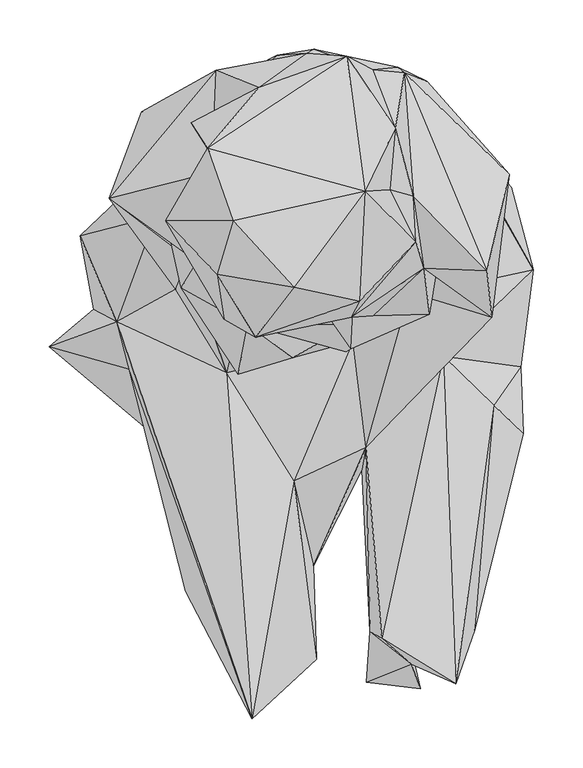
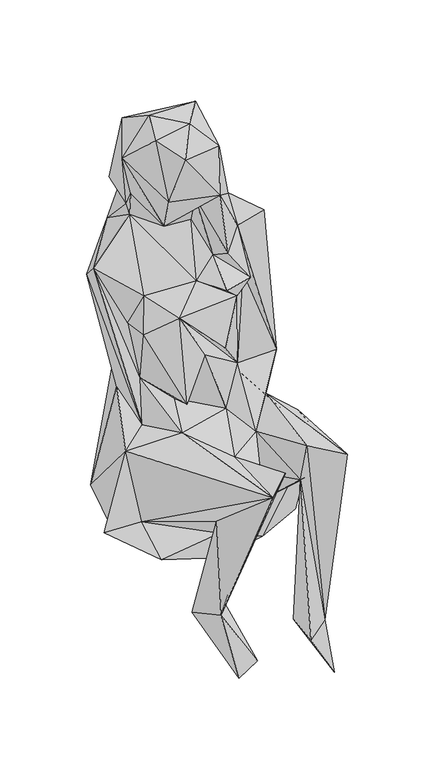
"""IFC4 building model written with IfcOpenShell, lengths in millimetres: geographic element geometry, Enscape AssetDefinition - Maja Sitting : Enscape AssetDefinition - Maja Sitting."""

from ifc_helpers import new_model, si_unit, origin, place, context, project, spatial, faceted_brep, source, transform, mapped, element, save


def geographic_element_6d1b33b0(model_context):
    return source(origin(), model_context, "Body", "Brep", [
        faceted_brep([(47.5098789, -12.7179194, 801.9140959), (2.6335388, -40.0580391, 694.3977475), (67.8890049, 20.3961525, 596.739471), (-97.0111936, -12.2370906, 792.4607396), (-33.5448161, 22.6570498, 848.3881354), (95.2361375, 44.5918515, 809.7375631), (7.922655, -36.6411507, 843.4767127), (87.515831, -2.0094633, 830.6225538), (150.7027298, -4.9264911, 618.9838052), (81.9241926, 44.8553078, 940.754354), (30.2150752, -3.5841775, 915.0460958), (11.1812707, 28.827684, 898.0457783), (-36.5229473, 23.2380498, 1066.7254925), (-11.8995095, 84.2472017, 966.6970372), (8.4836213, -5.0667324, 1076.710701), (-124.1659969, 7.1763685, 1034.229517), (-133.0122501, 142.1079189, 986.7817163), (-180.3458184, 92.7167982, 1181.3950539), (-146.8170285, 114.0205115, 1064.892292), (-120.7761541, -6.8317745, 1105.2207947), (-132.690683, 157.8550637, 1006.7030191), (-127.7962476, 38.8058797, 1242.8090572), (-137.6662701, 166.3146466, 1228.941083), (-111.7395833, 92.7779004, 1271.9912529), (-88.8300911, -25.4498627, 1215.9496546), (-50.0552692, 25.5850963, 1267.794013), (21.8496583, 122.8357032, 1243.4831858), (16.274048, 11.2103205, 1195.022583), (73.968485, 71.8488321, 1013.1140947), (3.8716728, 259.8778903, 1000.6856918), (52.8560951, 186.6767406, 1047.7417707), (47.373645, 124.3022382, 1086.8401527), (71.359992, 117.6878288, 1001.3338327), (62.0549507, 242.8795993, 885.5632544), (29.9776662, 246.0240126, 932.1004748), (145.9214985, 41.987367, 961.5662098), (168.282032, 140.3158307, 874.2167354), (84.6438855, 234.5812917, 778.4686685), (55.2341938, 248.7767637, 794.2889333), (-29.7222268, 266.7046785, 820.5682039), (-37.2201502, 262.9331648, 925.1545072), (42.1496406, 232.1591228, 731.6990495), (111.3999933, 178.4014851, 742.6689863), (59.5666654, 202.0352036, 707.4122429), (-25.980778, 259.1035664, 709.6390128), (100.5653217, 134.4376951, 620.3050613), (14.7634437, 211.126864, 597.1271396), (109.41457, 65.3225854, 608.7641716), (153.125912, 112.8985807, 462.8216624), (-51.4636934, 230.8709025, 455.3427696), (103.2850146, 203.4696639, 432.4342906), (193.0397004, 43.5991399, 416.4297283), (78.0875832, 18.4598155, 565.2481914), (170.4507619, 127.2412986, 310.3919625), (-21.119399, 244.067654, 357.7255309), (-140.8036649, 197.3331124, 575.7502913), (-267.1003342, 78.0144557, 356.4372957), (-170.0881422, -34.5725827, 304.27441), (104.2005867, -74.433282, 317.2517717), (180.1274568, -55.2472211, 402.9605091), (101.4688835, -44.3514362, 543.1200266), (23.1509004, -136.5293115, 526.9842744), (-51.6960956, -46.0663959, 700.3630996), (9.9010644, -29.0691014, 526.5344381), (-106.9172695, -62.8413111, 599.0564823), (-105.9716418, -5.0406875, 578.9798498), (-148.3586878, 51.2343049, 831.5341473), (-164.6327525, 25.0401571, 750.3492236), (-157.3562026, 54.524973, 615.8043146), (-118.6454818, -61.1043088, 526.2680054), (-50.1043536, -170.5188751, 504.6477318), (-230.0364673, -9.1427574, 484.2996895), (-92.7758962, -411.7646515, 558.0828786), (-170.3105271, 23.5726275, 514.8703456), (-27.4132453, -351.5459001, 563.5823607), (-30.021742, -256.9177747, 457.524538), (-217.4397409, -57.6333292, 323.0187297), (-127.7882457, -245.9538877, 158.4600955), (-159.8725319, -282.5309336, 440.461129), (-134.5478892, -132.8199059, 100.0574455), (-104.0543318, -284.1637433, 6.5953671), (-57.5511903, -282.7192545, 35.5202183), (-87.2243345, -193.5485899, 142.2121078), (-86.2115845, -239.3274754, 421.9752848), (-62.9054159, -128.1618774, 281.8938494), (-52.2069782, -132.1397424, 389.5022869), (40.7782793, -166.9196934, 367.5524592), (19.105928, -159.5640033, 432.5775504), (182.6007068, -122.416988, 466.2605822), (133.3438158, -321.5020895, 524.6081352), (27.2920374, -323.686868, 510.2043152), (23.6898307, -374.7348487, 117.4864918), (49.0775853, -254.6619177, 90.9808055), (69.3024471, -356.6897213, 145.0299472), (39.1805284, -330.4404914, 599.8207927), (114.2398864, -376.6581416, 579.4667006), (78.0395046, -381.2690973, 17.8357381), (152.6090205, -94.2654684, 513.0041838), (109.6720248, -159.233436, 305.2410781), (46.6193482, -125.2809167, 233.562544), (-64.7365749, -136.8839145, 222.2370207), (-201.9460499, -115.5862138, 252.8097034), (-298.3211577, -34.784954, 308.5908592), (-253.2304525, 3.0773038, 272.9263902), (-190.444231, 97.705394, 577.2148371), (-121.8650267, 192.106083, 680.3084612), (-204.8420459, 203.4967244, 815.4764175), (-59.377335, 241.7085767, 712.0591998), (-124.3883818, 231.1834544, 803.8854599), (-66.9974685, 260.9357238, 799.8304963), (-98.7582058, 232.6790243, 865.7571077), (-129.1786432, 245.3638911, 914.1305089), (-85.6095478, 228.4056693, 1066.1615133), (-237.6295477, 115.9738824, 896.0292935), (-154.6605527, 192.5027817, 1063.2174015), (-175.868094, 75.4179806, 754.8279166)], [[[0, 1, 2]], [[1, 0, 3]], [[1, 3, 2]], [[4, 3, 0]], [[0, 2, 5]], [[6, 0, 7]], [[5, 7, 0]], [[6, 4, 0]], [[2, 8, 5]], [[5, 9, 7]], [[9, 5, 8]], [[9, 10, 7]], [[7, 11, 6]], [[7, 10, 11]], [[11, 4, 6]], [[12, 13, 11]], [[11, 13, 4]], [[12, 11, 10]], [[9, 14, 10]], [[10, 14, 12]], [[13, 12, 15]], [[12, 14, 15]], [[16, 13, 15]], [[13, 16, 4]], [[17, 18, 15]], [[15, 14, 19]], [[17, 15, 19]], [[15, 18, 16]], [[17, 20, 18]], [[18, 20, 16]], [[19, 21, 17]], [[20, 17, 22]], [[17, 21, 23]], [[23, 22, 17]], [[19, 14, 24]], [[24, 21, 19]], [[25, 23, 21]], [[21, 24, 25]], [[23, 25, 26]], [[22, 23, 26]], [[25, 24, 27]], [[25, 27, 26]], [[14, 27, 24]], [[14, 28, 27]], [[28, 26, 27]], [[22, 26, 29]], [[29, 26, 30]], [[31, 26, 28]], [[26, 31, 30]], [[14, 9, 28]], [[28, 9, 32]], [[28, 32, 31]], [[31, 32, 30]], [[30, 32, 33]], [[30, 34, 29]], [[33, 34, 30]], [[35, 33, 32]], [[35, 32, 9]], [[8, 35, 9]], [[33, 35, 36]], [[35, 8, 36]], [[33, 36, 37]], [[33, 38, 34]], [[37, 38, 33]], [[34, 38, 39]], [[40, 34, 39]], [[29, 34, 40]], [[41, 39, 38]], [[38, 37, 41]], [[37, 42, 43]], [[42, 37, 36]], [[37, 43, 41]], [[44, 39, 41]], [[44, 41, 43]], [[43, 42, 45]], [[44, 43, 46]], [[46, 43, 45]], [[45, 42, 47]], [[36, 47, 42]], [[45, 47, 48]], [[49, 45, 50]], [[46, 45, 49]], [[45, 48, 50]], [[51, 48, 52]], [[50, 48, 51]], [[52, 48, 47]], [[50, 53, 54]], [[50, 51, 53]], [[50, 54, 49]], [[55, 46, 49]], [[55, 49, 54]], [[54, 56, 55]], [[57, 54, 53]], [[57, 56, 54]], [[58, 57, 53]], [[53, 51, 59]], [[58, 53, 59]], [[51, 60, 59]], [[52, 60, 51]], [[52, 47, 60]], [[47, 36, 8]], [[60, 47, 8]], [[2, 61, 8]], [[8, 61, 60]], [[3, 62, 2]], [[2, 63, 61]], [[63, 2, 62]], [[64, 65, 62]], [[3, 64, 62]], [[65, 63, 62]], [[66, 3, 4]], [[3, 66, 67]], [[67, 64, 3]], [[64, 68, 65]], [[67, 68, 64]], [[68, 69, 65]], [[63, 65, 69]], [[70, 63, 69]], [[70, 61, 63]], [[69, 71, 72]], [[72, 70, 69]], [[73, 69, 68]], [[71, 69, 73]], [[70, 72, 74]], [[74, 75, 70]], [[61, 70, 75]], [[71, 76, 72]], [[77, 72, 78]], [[78, 72, 76]], [[72, 77, 74]], [[74, 77, 75]], [[79, 80, 77]], [[78, 79, 77]], [[77, 80, 81]], [[82, 75, 77]], [[82, 77, 81]], [[83, 79, 78]], [[83, 78, 76]], [[81, 80, 79]], [[82, 81, 79]], [[82, 79, 83]], [[82, 83, 75]], [[84, 83, 76]], [[85, 83, 84]], [[83, 85, 75]], [[85, 84, 86]], [[85, 87, 75]], [[85, 86, 87]], [[86, 88, 89]], [[88, 86, 84]], [[86, 89, 90]], [[87, 86, 90]], [[61, 75, 87]], [[61, 87, 90]], [[91, 90, 92]], [[90, 89, 92]], [[93, 90, 91]], [[94, 90, 93]], [[61, 90, 94]], [[60, 61, 94]], [[60, 94, 95]], [[94, 93, 95]], [[92, 89, 93]], [[93, 89, 95]], [[96, 92, 93]], [[93, 91, 96]], [[91, 92, 96]], [[97, 60, 95]], [[89, 97, 95]], [[97, 59, 60]], [[97, 88, 59]], [[88, 97, 89]], [[98, 59, 88]], [[58, 59, 99]], [[99, 59, 98]], [[99, 88, 84]], [[98, 88, 99]], [[84, 100, 99]], [[58, 99, 100]], [[58, 100, 57]], [[101, 100, 84]], [[100, 101, 57]], [[76, 101, 84]], [[57, 101, 102]], [[101, 76, 102]], [[103, 56, 57]], [[103, 57, 102]], [[76, 71, 102]], [[103, 102, 71]], [[56, 103, 71]], [[56, 104, 55]], [[104, 56, 71]], [[73, 104, 71]], [[105, 104, 106]], [[73, 106, 104]], [[105, 55, 104]], [[105, 46, 55]], [[105, 107, 46]], [[108, 107, 105]], [[108, 105, 106]], [[44, 46, 107]], [[108, 109, 107]], [[109, 39, 107]], [[39, 44, 107]], [[109, 108, 110]], [[108, 106, 110]], [[40, 109, 110]], [[109, 40, 39]], [[40, 110, 111]], [[110, 106, 111]], [[40, 111, 112]], [[29, 40, 112]], [[20, 112, 111]], [[113, 111, 106]], [[113, 16, 111]], [[111, 16, 20]], [[112, 22, 29]], [[22, 112, 114]], [[20, 114, 112]], [[114, 20, 22]], [[16, 66, 4]], [[66, 16, 113]], [[66, 115, 67]], [[115, 66, 113]], [[113, 68, 115]], [[67, 115, 68]], [[113, 73, 68]], [[73, 113, 106]]]),
    ])


if __name__ == "__main__":
    model = new_model("IFC4")
    model_context = context("Model", 3, world=origin())
    ifc_project = project(units=[si_unit("LENGTHUNIT", "METRE", prefix="MILLI")], contexts=[model_context])
    site = spatial("IfcSite", under=ifc_project)
    building = spatial("IfcBuilding", under=site)
    placement = place(None, origin())
    geographic_element_shape = geographic_element_6d1b33b0(model_context)
    element("IfcGeographicElement", 1, ObjectType="Enscape AssetDefinition - Maja Sitting : Enscape AssetDefinition - Maja Sitting", at=placement, inside=building, context=model_context, shape_type="MappedRepresentation", body=[
        mapped(geographic_element_shape, transform((0.0, 0.0, 0.0), x_axis=(1.0, 0.0, 0.0), y_axis=(0.0, 1.0, 0.0), z_axis=(0.0, 0.0, 1.0))),
    ])
    save(model, "model.ifc")
